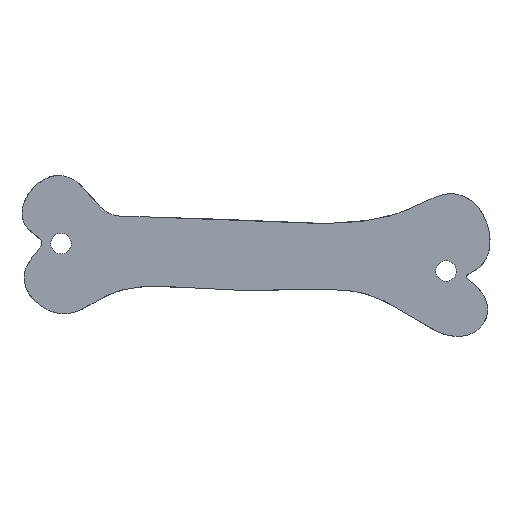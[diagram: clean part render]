
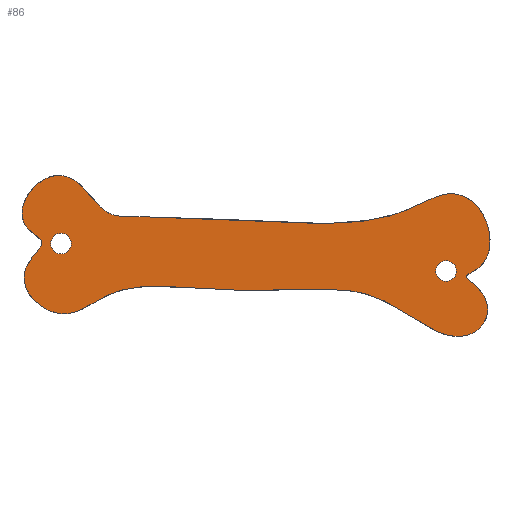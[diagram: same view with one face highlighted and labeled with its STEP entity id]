
A CAD part, top view. The second image highlights one B-rep face of the part: STEP entity #86.
In plain terms, the highlighted planar face has unit normal (0, 0, 1).
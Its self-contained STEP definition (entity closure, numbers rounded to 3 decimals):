
#15=FACE_BOUND('',#33,.T.);
#16=FACE_BOUND('',#34,.T.);
#19=PLANE('',#108);
#22=(
BOUNDED_CURVE()
B_SPLINE_CURVE(5,(#417,#418,#419,#420,#421,#422,#423,#424,#425,#426,#427,
#428,#429,#430,#431,#432,#433,#434,#435,#436,#437,#438,#439,#440,#441,#442,
#443,#444,#445,#446,#447,#448,#449,#450,#451,#452,#453,#454,#455,#456,#457,
#458,#459,#460,#461,#462,#463,#464,#465,#466,#467,#468,#469,#470,#471,#472,
#473,#474,#475,#476,#477,#478,#479,#480,#481,#482,#483,#484,#485,#486,#487,
#488,#489,#490,#491,#492,#493,#494,#495,#496,#497,#498,#499,#500,#501,#502,
#503,#504,#505,#506),.UNSPECIFIED.,.T.,.F.)
B_SPLINE_CURVE_WITH_KNOTS((6,1,1,1,1,1,1,1,1,1,1,1,1,1,1,1,1,1,1,1,1,1,
1,1,1,1,1,1,1,1,1,1,1,1,1,1,1,1,1,1,1,1,1,1,1,1,1,1,1,1,1,1,1,1,1,1,1,1,
1,1,1,1,1,1,1,1,1,1,1,1,1,1,1,1,1,1,1,1,1,1,1,1,1,1,1,6),(-1.,-0.988,
-0.976,-0.965,-0.953,-0.941,
-0.929,-0.918,-0.906,-0.894,
-0.882,-0.871,-0.859,-0.847,
-0.835,-0.824,-0.812,-0.8,
-0.788,-0.776,-0.765,-0.753,
-0.741,-0.729,-0.718,-0.706,
-0.694,-0.682,-0.671,-0.659,
-0.647,-0.635,-0.624,-0.612,
-0.6,-0.588,-0.576,-0.565,-0.553,
-0.541,-0.529,-0.518,-0.506,
-0.494,-0.482,-0.471,-0.459,
-0.447,-0.435,-0.424,-0.412,
-0.4,-0.388,-0.376,-0.365,-0.353,
-0.341,-0.329,-0.318,-0.306,
-0.294,-0.282,-0.271,-0.259,
-0.247,-0.235,-0.224,-0.212,
-0.2,-0.188,-0.176,-0.165,-0.153,
-0.141,-0.129,-0.118,-0.106,
-0.094,-0.082,-0.071,-0.059,
-0.047,-0.035,-0.024,-0.012,
0.),.UNSPECIFIED.)
CURVE()
GEOMETRIC_REPRESENTATION_ITEM()
RATIONAL_B_SPLINE_CURVE((1.,1.,1.,1.,1.,1.,1.,1.,1.,1.,1.,1.,1.,1.,1.,1.,
1.,1.,1.,1.,1.,1.,1.,1.,1.,1.,1.,1.,1.,1.,1.,1.,1.,1.,1.,1.,1.,1.,1.,1.,
1.,1.,1.,1.,1.,1.,1.,1.,1.,1.,1.,1.,1.,1.,1.,1.,1.,1.,1.,1.,1.,1.,1.,1.,
1.,1.,1.,1.,1.,1.,1.,1.,1.,1.,1.,1.,1.,1.,1.,1.,1.,1.,1.,1.,1.,1.,1.,1.,
1.,1.))
REPRESENTATION_ITEM('')
);
#27=FACE_OUTER_BOUND('',#32,.T.);
#32=EDGE_LOOP('',(#75));
#33=EDGE_LOOP('',(#76));
#34=EDGE_LOOP('',(#77));
#44=CIRCLE('',#103,0.75);
#46=CIRCLE('',#106,0.75);
#48=VERTEX_POINT('',#133);
#50=VERTEX_POINT('',#139);
#53=VERTEX_POINT('',#415);
#54=EDGE_CURVE('',#48,#48,#44,.T.);
#57=EDGE_CURVE('',#50,#50,#46,.T.);
#62=EDGE_CURVE('',#53,#53,#22,.T.);
#75=ORIENTED_EDGE('',*,*,#62,.T.);
#76=ORIENTED_EDGE('',*,*,#57,.T.);
#77=ORIENTED_EDGE('',*,*,#54,.T.);
#86=ADVANCED_FACE('',(#27,#15,#16),#19,.T.);
#103=AXIS2_PLACEMENT_3D('',#134,#114,#115);
#106=AXIS2_PLACEMENT_3D('',#140,#121,#122);
#108=AXIS2_PLACEMENT_3D('',#507,#127,#128);
#114=DIRECTION('center_axis',(0.,0.,-1.));
#115=DIRECTION('ref_axis',(1.,0.,0.));
#121=DIRECTION('center_axis',(0.,0.,-1.));
#122=DIRECTION('ref_axis',(1.,0.,0.));
#127=DIRECTION('center_axis',(0.,0.,1.));
#128=DIRECTION('ref_axis',(1.,0.,0.));
#133=CARTESIAN_POINT('',(129.383,-14.753,1.5));
#134=CARTESIAN_POINT('Origin',(130.133,-14.753,1.5));
#139=CARTESIAN_POINT('',(101.368,-12.758,1.5));
#140=CARTESIAN_POINT('Origin',(102.118,-12.758,1.5));
#415=CARTESIAN_POINT('',(100.736,-12.696,1.5));
#417=CARTESIAN_POINT('Ctrl Pts',(100.736,-12.696,1.5));
#418=CARTESIAN_POINT('Ctrl Pts',(100.746,-12.765,1.5));
#419=CARTESIAN_POINT('Ctrl Pts',(100.727,-12.908,1.5));
#420=CARTESIAN_POINT('Ctrl Pts',(100.582,-13.147,1.5));
#421=CARTESIAN_POINT('Ctrl Pts',(100.204,-13.542,1.5));
#422=CARTESIAN_POINT('Ctrl Pts',(99.673,-14.19,1.5));
#423=CARTESIAN_POINT('Ctrl Pts',(99.36,-14.977,1.5));
#424=CARTESIAN_POINT('Ctrl Pts',(99.434,-15.841,1.5));
#425=CARTESIAN_POINT('Ctrl Pts',(99.891,-16.675,1.5));
#426=CARTESIAN_POINT('Ctrl Pts',(100.63,-17.362,1.5));
#427=CARTESIAN_POINT('Ctrl Pts',(101.504,-17.802,1.5));
#428=CARTESIAN_POINT('Ctrl Pts',(102.377,-17.933,1.5));
#429=CARTESIAN_POINT('Ctrl Pts',(103.185,-17.774,1.5));
#430=CARTESIAN_POINT('Ctrl Pts',(103.942,-17.404,1.5));
#431=CARTESIAN_POINT('Ctrl Pts',(104.696,-16.931,1.5));
#432=CARTESIAN_POINT('Ctrl Pts',(105.519,-16.47,1.5));
#433=CARTESIAN_POINT('Ctrl Pts',(106.472,-16.112,1.5));
#434=CARTESIAN_POINT('Ctrl Pts',(107.585,-15.897,1.5));
#435=CARTESIAN_POINT('Ctrl Pts',(108.861,-15.825,1.5));
#436=CARTESIAN_POINT('Ctrl Pts',(110.282,-15.866,1.5));
#437=CARTESIAN_POINT('Ctrl Pts',(111.815,-15.973,1.5));
#438=CARTESIAN_POINT('Ctrl Pts',(113.418,-16.093,1.5));
#439=CARTESIAN_POINT('Ctrl Pts',(115.044,-16.18,1.5));
#440=CARTESIAN_POINT('Ctrl Pts',(116.653,-16.202,1.5));
#441=CARTESIAN_POINT('Ctrl Pts',(118.209,-16.161,1.5));
#442=CARTESIAN_POINT('Ctrl Pts',(119.693,-16.089,1.5));
#443=CARTESIAN_POINT('Ctrl Pts',(121.092,-16.036,1.5));
#444=CARTESIAN_POINT('Ctrl Pts',(122.405,-16.061,1.5));
#445=CARTESIAN_POINT('Ctrl Pts',(123.634,-16.214,1.5));
#446=CARTESIAN_POINT('Ctrl Pts',(124.791,-16.533,1.5));
#447=CARTESIAN_POINT('Ctrl Pts',(125.889,-17.024,1.5));
#448=CARTESIAN_POINT('Ctrl Pts',(126.945,-17.652,1.5));
#449=CARTESIAN_POINT('Ctrl Pts',(127.975,-18.335,1.5));
#450=CARTESIAN_POINT('Ctrl Pts',(128.993,-18.961,1.5));
#451=CARTESIAN_POINT('Ctrl Pts',(129.997,-19.414,1.5));
#452=CARTESIAN_POINT('Ctrl Pts',(130.969,-19.597,1.5));
#453=CARTESIAN_POINT('Ctrl Pts',(131.866,-19.452,1.5));
#454=CARTESIAN_POINT('Ctrl Pts',(132.613,-18.983,1.5));
#455=CARTESIAN_POINT('Ctrl Pts',(133.102,-18.277,1.5));
#456=CARTESIAN_POINT('Ctrl Pts',(133.243,-17.457,1.5));
#457=CARTESIAN_POINT('Ctrl Pts',(133.009,-16.661,1.5));
#458=CARTESIAN_POINT('Ctrl Pts',(132.487,-15.996,1.5));
#459=CARTESIAN_POINT('Ctrl Pts',(131.912,-15.516,1.5));
#460=CARTESIAN_POINT('Ctrl Pts',(131.548,-15.216,1.5));
#461=CARTESIAN_POINT('Ctrl Pts',(131.582,-15.039,1.5));
#462=CARTESIAN_POINT('Ctrl Pts',(131.986,-14.862,1.5));
#463=CARTESIAN_POINT('Ctrl Pts',(132.553,-14.541,1.5));
#464=CARTESIAN_POINT('Ctrl Pts',(133.05,-13.976,1.5));
#465=CARTESIAN_POINT('Ctrl Pts',(133.341,-13.178,1.5));
#466=CARTESIAN_POINT('Ctrl Pts',(133.373,-12.228,1.5));
#467=CARTESIAN_POINT('Ctrl Pts',(133.148,-11.252,1.5));
#468=CARTESIAN_POINT('Ctrl Pts',(132.71,-10.377,1.5));
#469=CARTESIAN_POINT('Ctrl Pts',(132.12,-9.701,1.5));
#470=CARTESIAN_POINT('Ctrl Pts',(131.439,-9.27,1.5));
#471=CARTESIAN_POINT('Ctrl Pts',(130.719,-9.091,1.5));
#472=CARTESIAN_POINT('Ctrl Pts',(129.995,-9.142,1.5));
#473=CARTESIAN_POINT('Ctrl Pts',(129.271,-9.378,1.5));
#474=CARTESIAN_POINT('Ctrl Pts',(128.514,-9.74,1.5));
#475=CARTESIAN_POINT('Ctrl Pts',(127.672,-10.16,1.5));
#476=CARTESIAN_POINT('Ctrl Pts',(126.683,-10.574,1.5));
#477=CARTESIAN_POINT('Ctrl Pts',(125.495,-10.925,1.5));
#478=CARTESIAN_POINT('Ctrl Pts',(124.073,-11.172,1.5));
#479=CARTESIAN_POINT('Ctrl Pts',(122.42,-11.304,1.5));
#480=CARTESIAN_POINT('Ctrl Pts',(120.571,-11.326,1.5));
#481=CARTESIAN_POINT('Ctrl Pts',(118.581,-11.265,1.5));
#482=CARTESIAN_POINT('Ctrl Pts',(116.524,-11.152,1.5));
#483=CARTESIAN_POINT('Ctrl Pts',(114.481,-11.023,1.5));
#484=CARTESIAN_POINT('Ctrl Pts',(112.532,-10.912,1.5));
#485=CARTESIAN_POINT('Ctrl Pts',(110.751,-10.841,1.5));
#486=CARTESIAN_POINT('Ctrl Pts',(109.195,-10.819,1.5));
#487=CARTESIAN_POINT('Ctrl Pts',(107.899,-10.832,1.5));
#488=CARTESIAN_POINT('Ctrl Pts',(106.867,-10.836,1.5));
#489=CARTESIAN_POINT('Ctrl Pts',(106.065,-10.757,1.5));
#490=CARTESIAN_POINT('Ctrl Pts',(105.436,-10.523,1.5));
#491=CARTESIAN_POINT('Ctrl Pts',(104.906,-10.09,1.5));
#492=CARTESIAN_POINT('Ctrl Pts',(104.399,-9.468,1.5));
#493=CARTESIAN_POINT('Ctrl Pts',(103.842,-8.76,1.5));
#494=CARTESIAN_POINT('Ctrl Pts',(103.182,-8.132,1.5));
#495=CARTESIAN_POINT('Ctrl Pts',(102.397,-7.753,1.5));
#496=CARTESIAN_POINT('Ctrl Pts',(101.509,-7.756,1.5));
#497=CARTESIAN_POINT('Ctrl Pts',(100.6,-8.178,1.5));
#498=CARTESIAN_POINT('Ctrl Pts',(99.816,-8.927,1.5));
#499=CARTESIAN_POINT('Ctrl Pts',(99.31,-9.841,1.5));
#500=CARTESIAN_POINT('Ctrl Pts',(99.192,-10.741,1.5));
#501=CARTESIAN_POINT('Ctrl Pts',(99.482,-11.479,1.5));
#502=CARTESIAN_POINT('Ctrl Pts',(100.037,-12.004,1.5));
#503=CARTESIAN_POINT('Ctrl Pts',(100.471,-12.297,1.5));
#504=CARTESIAN_POINT('Ctrl Pts',(100.67,-12.492,1.5));
#505=CARTESIAN_POINT('Ctrl Pts',(100.727,-12.626,1.5));
#506=CARTESIAN_POINT('Ctrl Pts',(100.736,-12.696,1.5));
#507=CARTESIAN_POINT('Origin',(116.282,-13.675,1.5));
